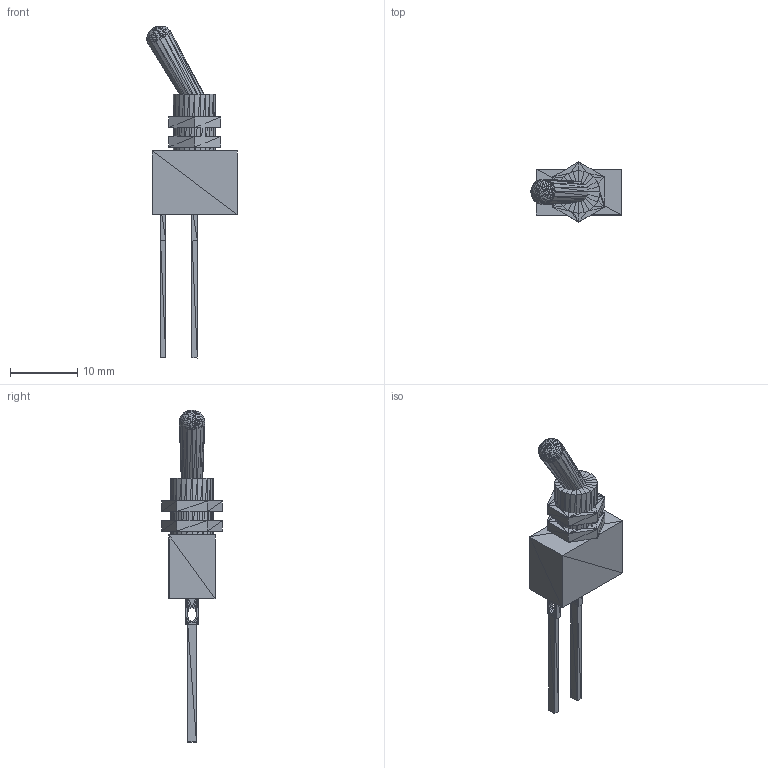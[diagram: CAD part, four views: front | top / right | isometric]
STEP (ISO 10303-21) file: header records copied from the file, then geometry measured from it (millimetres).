
FILE_DESCRIPTION(('HOOPS Exchange Step'),'2;1');
FILE_NAME('***.stp');
FILE_SCHEMA( ('AP242_MANAGED_MODEL_BASED_3D_ENGINEERING_MIM_LF {1 0 10303 442 1 1 4 }') );
Length unit declared in the file: inch
Products named in the file (10): SWSMSPST2PT_TOG_2; SWSMSPST2PT_TOG_3; SWSMSPST2PT_TOG_4; SWSMSPST2PT_TOG_5; SWSMSPST2PT_TOG_6; SWSMSPST2PT_TOG_7; SWSMSPST2PT_TOG_8; SWSMSPST2PT_TOG_9; SWSMSPST2PT_TOG_10; SWSMSPST2PT_TOG
Assembly tree (9 placements, depth 2):
  SWSMSPST2PT_TOG
    SWSMSPST2PT_TOG_2
    SWSMSPST2PT_TOG_3
    SWSMSPST2PT_TOG_4
    SWSMSPST2PT_TOG_5
    SWSMSPST2PT_TOG_6
    SWSMSPST2PT_TOG_7
    SWSMSPST2PT_TOG_8
    SWSMSPST2PT_TOG_9
    SWSMSPST2PT_TOG_10
Bounding box: 13.5 x 9.02 x 49.55 mm (x, y, z)
Volume: 881.3 mm3; surface area: 2099.2 mm2
Topology: 5 solids, 1645 shells, 1844 faces, 1520 edges, 508 vertices
Faces by surface type: plane 1844
Entity records: 29320 total; most frequent: ORIENTED_EDGE 5532, DIRECTION 5248, CARTESIAN_POINT 3892, AXIS2_PLACEMENT_3D 1864, PLANE 1844, EDGE_LOOP 1844, FACE_BOUND 1844, ADVANCED_FACE 1844
